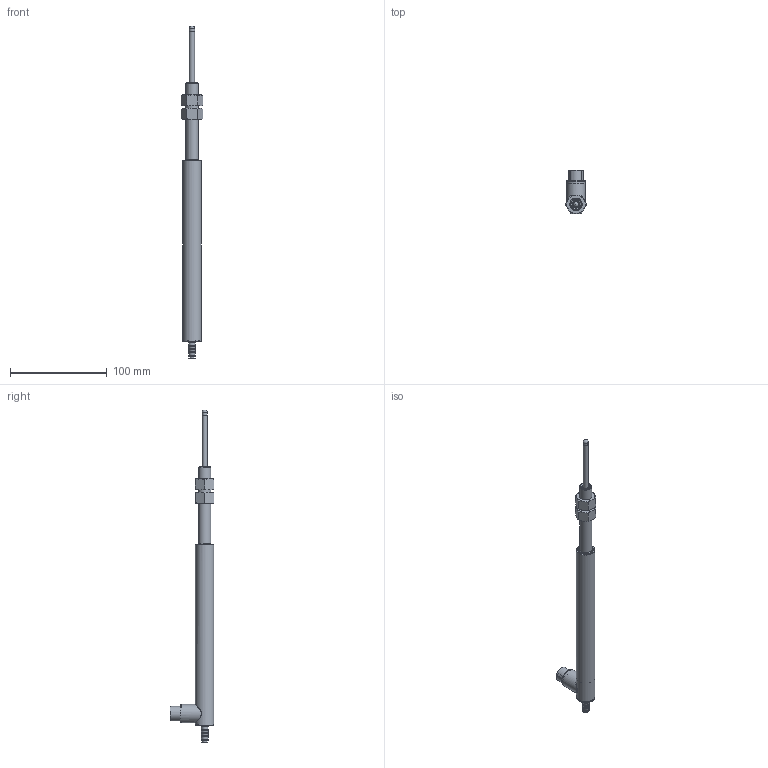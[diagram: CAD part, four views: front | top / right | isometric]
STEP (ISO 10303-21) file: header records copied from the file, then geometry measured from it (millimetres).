
FILE_DESCRIPTION(/* description */ (''),/* implementation_level */ '2;1');
FILE_NAME(/* name */ 'F:\GHRA SERIES\GHRA-750-A-XXXX\GHRA-750-A-1000\GHRA-750-A-1000 Assembly.iam.stp',/* time_stamp */ '2021-11-17T12:45:28-05:00',/* author */ ('J. Nielson'),/* organization */ (''),/* preprocessor_version */ 'ST-DEVELOPER v18.1',/* originating_system */ 'Autodesk Inventor 2022',/* authorisation */ '');
FILE_SCHEMA (('AUTOMOTIVE_DESIGN { 1 0 10303 214 3 1 1 }'));
Length unit declared in the file: inch
Products named in the file (4): GHRA-750-A-1000 Assembly; GHRA-750-A-1000 HOUSING_Substitute_1; GHRA-750-A-1000 SHAFT_Substitute_1; AS 2465 - 1/2  UNF
Assembly tree (4 placements, depth 2):
  GHRA-750-A-1000 Assembly
    GHRA-750-A-1000 HOUSING_Substitute_1
    GHRA-750-A-1000 SHAFT_Substitute_1
    AS 2465 - 1/2  UNF  x2
Bounding box: 22 x 45.24 x 342.52 mm (x, y, z)
Volume: 34209.9 mm3; surface area: 38219.4 mm2
Topology: 17 solids, 17 shells, 210 faces, 417 edges, 265 vertices
Faces by surface type: plane 82, cylinder 68, cone 47, bspline 7, torus 5, sphere 1
Full cylindrical faces by diameter (mm): 0.762 x12, 2.845 x3, 4.762 x1, 4.826 x2, 5.334 x4, 5.397 x1, 6 x1, 6.731 x1, 7.493 x4, 7.671 x2, 7.874 x1, 11.328 x2, 12.7 x1, 13.208 x1, 14.986 x1, 15.748 x2, 16.51 x1, 17.018 x1, 17.069 x1, 17.78 x1, 18.034 x1, 18.415 x6, 19.05 x2
Entity records: 7132 total; most frequent: CARTESIAN_POINT 2791, DIRECTION 898, ORIENTED_EDGE 730, AXIS2_PLACEMENT_3D 384, EDGE_CURVE 365, EDGE_LOOP 239, VERTEX_POINT 236, CIRCLE 196
